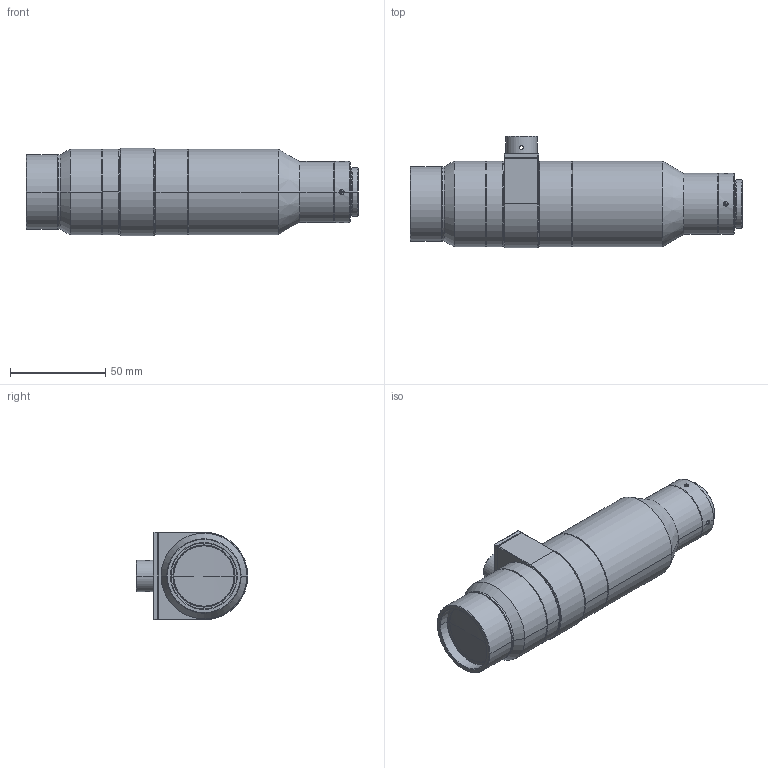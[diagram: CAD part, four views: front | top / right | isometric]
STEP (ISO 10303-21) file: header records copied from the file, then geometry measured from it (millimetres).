
FILE_DESCRIPTION((''),'2;1');
FILE_NAME('OPT-HP40-65C-F12_SW0001','2024-04-27T10:56:29',('李亦'),(''),'CREO PARAMETRIC BY PTC INC, 2020354','CREO PARAMETRIC BY PTC INC, 2020354','');
FILE_SCHEMA(('AUTOMOTIVE_DESIGN { 1 0 10303 214 1 1 1 1 }'));
Length unit declared in the file: millimetre
Products named in the file (1): OPT-HP40-65C-F12_SW0001
Bounding box: 174.06 x 58.5 x 46 mm (x, y, z)
Volume: 198979.9 mm3; surface area: 40696.4 mm2
Topology: 1 solids, 1 shells, 536 faces, 1252 edges, 725 vertices
Faces by surface type: plane 268, cone 109, cylinder 93, bspline 48, torus 14, sphere 4
Entity records: 21982 total; most frequent: CARTESIAN_POINT 7806, ORIENTED_EDGE 2440, DIRECTION 2382, EDGE_CURVE 1220, AXIS2_PLACEMENT_3D 859, VERTEX_POINT 801, VECTOR 664, LINE 664
